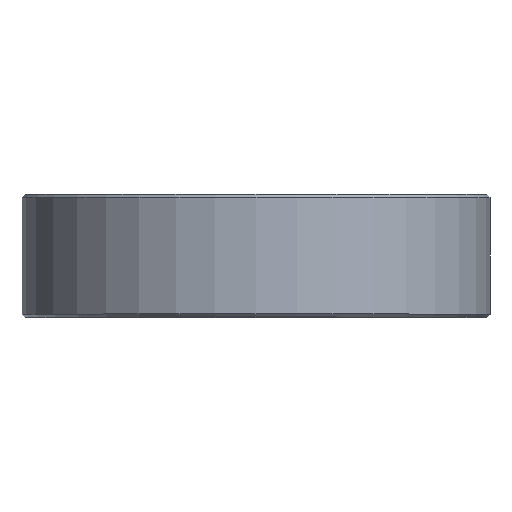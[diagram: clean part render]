
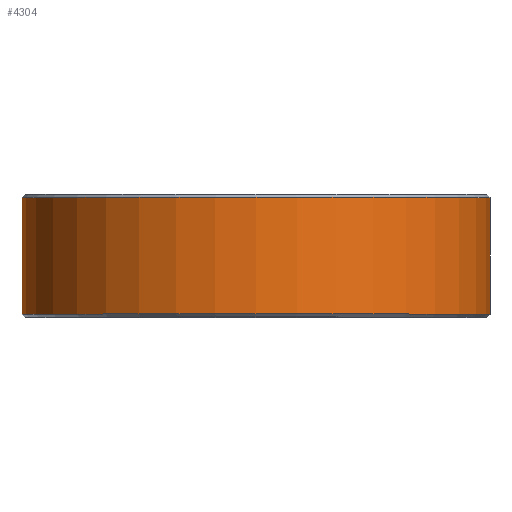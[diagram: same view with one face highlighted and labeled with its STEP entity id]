
A CAD part, top view. The second image highlights one B-rep face of the part: STEP entity #4304.
In plain terms, the highlighted cylindrical face has radius 15.25 mm (diameter 30.5 mm), a partial arc.
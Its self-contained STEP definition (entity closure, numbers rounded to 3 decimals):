
#1842=CARTESIAN_POINT('',(0.,0.2,0.));
#1843=DIRECTION('',(0.,-1.,0.));
#1844=DIRECTION('',(1.,0.,0.));
#1845=AXIS2_PLACEMENT_3D('',#1842,#1843,#1844);
#1847=DIRECTION('',(0.,1.,0.));
#1848=VECTOR('',#1847,7.6);
#1849=CARTESIAN_POINT('',(-15.25,0.2,
0.));
#1850=LINE('',#1849,#1848);
#1851=CARTESIAN_POINT('',(0.,7.8,0.));
#1852=DIRECTION('',(0.,1.,0.));
#1853=DIRECTION('',(-1.,0.,0.));
#1854=AXIS2_PLACEMENT_3D('',#1851,#1852,#1853);
#1869=DIRECTION('',(0.,1.,0.));
#1870=VECTOR('',#1869,7.6);
#1871=CARTESIAN_POINT('',(15.25,0.2,
0.));
#1872=LINE('',#1871,#1870);
#1954=CARTESIAN_POINT('',(-15.25,0.2,0.));
#1955=CARTESIAN_POINT('',(15.25,0.2,0.));
#1956=VERTEX_POINT('',#1954);
#1957=VERTEX_POINT('',#1955);
#1962=CARTESIAN_POINT('',(15.25,7.8,0.));
#1963=CARTESIAN_POINT('',(-15.25,7.8,0.));
#1964=VERTEX_POINT('',#1962);
#1965=VERTEX_POINT('',#1963);
#4290=CARTESIAN_POINT('',(0.,0.,0.));
#4291=DIRECTION('',(0.,1.,0.));
#4292=DIRECTION('',(1.,0.,0.));
#4293=AXIS2_PLACEMENT_3D('',#4290,#4291,#4292);
#4294=CYLINDRICAL_SURFACE('',#4293,15.25);
#4296=ORIENTED_EDGE('',*,*,#4295,.T.);
#4298=ORIENTED_EDGE('',*,*,#4297,.T.);
#4299=ORIENTED_EDGE('',*,*,#4284,.T.);
#4301=ORIENTED_EDGE('',*,*,#4300,.F.);
#4302=EDGE_LOOP('',(#4296,#4298,#4299,#4301));
#4303=FACE_OUTER_BOUND('',#4302,.F.);
#4304=ADVANCED_FACE('',(#4303),#4294,.T.);
#1846=CIRCLE('',#1845,15.25);
#1855=CIRCLE('',#1854,15.25);
#4284=EDGE_CURVE('',#1965,#1964,#1855,.T.);
#4295=EDGE_CURVE('',#1957,#1956,#1846,.T.);
#4297=EDGE_CURVE('',#1956,#1965,#1850,.T.);
#4300=EDGE_CURVE('',#1957,#1964,#1872,.T.);
